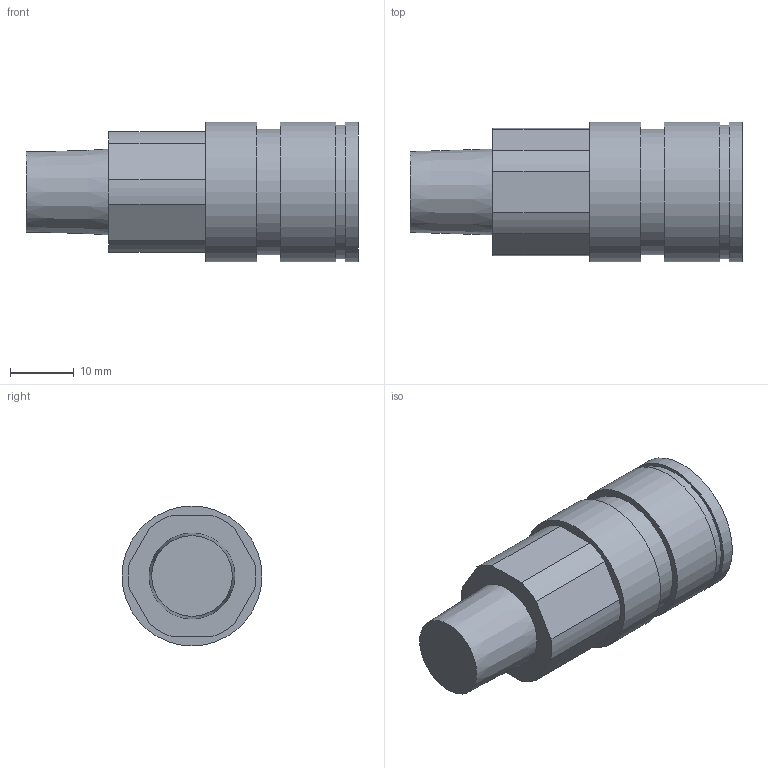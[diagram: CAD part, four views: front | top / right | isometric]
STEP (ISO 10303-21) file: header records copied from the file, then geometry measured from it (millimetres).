
FILE_DESCRIPTION((''),'2;1');
FILE_NAME('Z:\客先\あ行\アオイ\99_その他\3D_DATA\CPR_Series\4CPR-SSV-R\STEP\203\CPR-SSV-R1-4.ipt.stp','2008-07-01T16:12:48',(''),(''),'Autodesk Inventor 2009','Autodesk Inventor 2009','');
FILE_SCHEMA(('CONFIG_CONTROL_DESIGN'));
Length unit declared in the file: millimetre
Products named in the file (1): CPR-SSV-R1-4
Bounding box: 52.2 x 22 x 22 mm (x, y, z)
Volume: 12184.3 mm3; surface area: 4899.6 mm2
Topology: 1 solids, 1 shells, 28 faces, 57 edges, 38 vertices
Faces by surface type: plane 15, cylinder 12, cone 1
Full cylindrical faces by diameter (mm): 14.25 x1, 19.8 x1, 21 x1, 22 x3
Entity records: 729 total; most frequent: DIRECTION 134, CARTESIAN_POINT 117, ORIENTED_EDGE 100, AXIS2_PLACEMENT_3D 55, EDGE_CURVE 50, EDGE_LOOP 42, VERTEX_POINT 38, FACE_OUTER_BOUND 28
